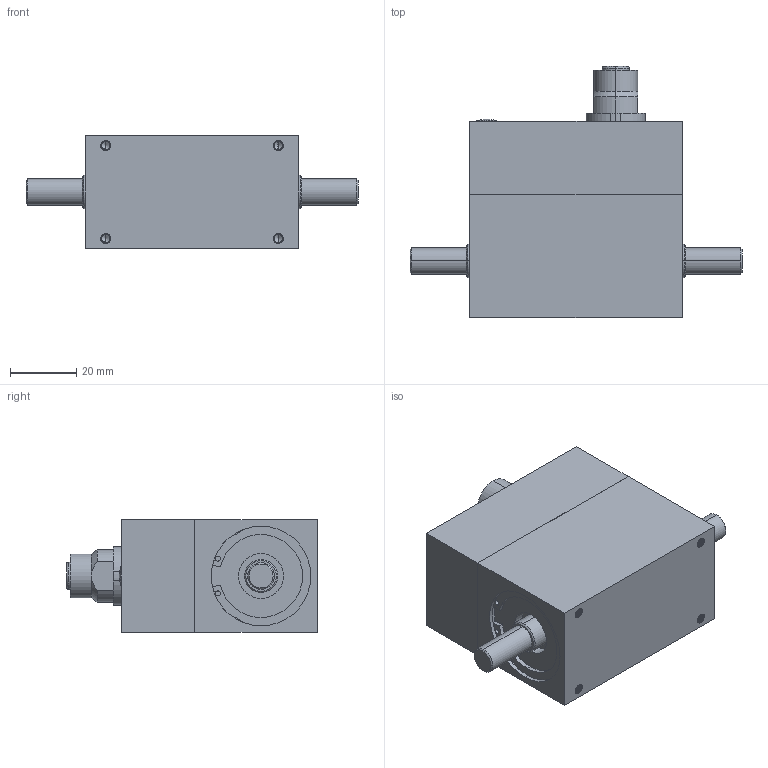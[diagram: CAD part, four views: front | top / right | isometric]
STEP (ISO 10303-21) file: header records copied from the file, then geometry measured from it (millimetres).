
FILE_DESCRIPTION (( 'STEP AP203' ), '1' );
FILE_NAME ('RTS01.STEP', '2026-05-28T14:36:39', ( '' ), ( '' ), 'SwSTEP 2.0', 'SolidWorks 2019', '' );
FILE_SCHEMA (( 'CONFIG_CONTROL_DESIGN' ));
Length unit declared in the file: millimetre
Products named in the file (1): RTS01
Bounding box: 100 x 75.6 x 34 mm (x, y, z)
Volume: 129123.8 mm3; surface area: 20888.7 mm2
Topology: 2 solids, 2 shells, 380 faces, 962 edges, 619 vertices
Faces by surface type: cylinder 221, plane 111, cone 31, bspline 12, torus 4, sphere 1
Entity records: 19767 total; most frequent: CARTESIAN_POINT 11207, ORIENTED_EDGE 1902, DIRECTION 1666, EDGE_CURVE 951, AXIS2_PLACEMENT_3D 624, VERTEX_POINT 617, EDGE_LOOP 422, LINE 418
